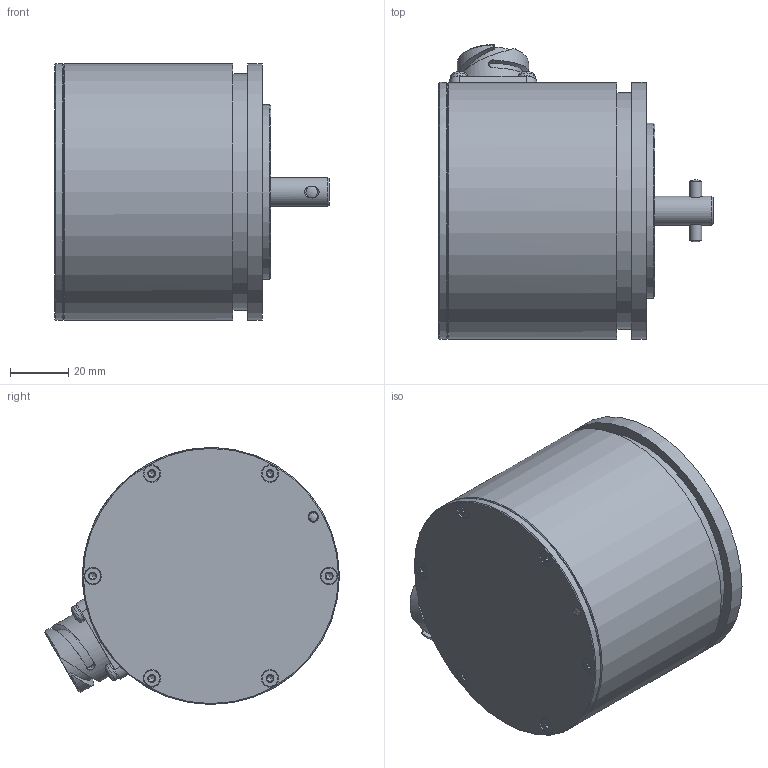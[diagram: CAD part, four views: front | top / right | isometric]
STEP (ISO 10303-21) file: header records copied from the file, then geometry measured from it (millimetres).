
FILE_DESCRIPTION(/* description */ ('XT00000105'),/* implementation_level */ '2;1');
FILE_NAME(/* name */ 'P:\Produkte\Sensoren\Magnetische Winkelsensoren - MT\XT\6 - 3D-Modell\XT00000105 - XT90 3D-Modell ITT-Cannon 7-polig seitlich A.stp',/* time_stamp */ '2016-03-16T09:27:50+01:00',/* author */ (''),/* organization */ ('IBS-Hühne GmbH'),/* preprocessor_version */ 'ST-DEVELOPER v16.1',/* originating_system */ 'Autodesk Inventor 2016',/* authorisation */ '');
FILE_SCHEMA (('AUTOMOTIVE_DESIGN { 1 0 10303 214 3 1 1 }'));
Length unit declared in the file: millimetre
Products named in the file (1): XT00000105 - XT90 3D-Modell ITT-Cannon 7-polig seitlich A
Bounding box: 94.08 x 100.96 x 88 mm (x, y, z)
Volume: 864.9 mm3; surface area: 41287.8 mm2
Topology: 1 solids, 4 shells, 833 faces, 2248 edges, 1479 vertices
Faces by surface type: plane 449, cylinder 212, cone 105, torus 46, bspline 14, sphere 7
Full cylindrical faces by diameter (mm): 1.56 x7, 1.7 x2, 3.6 x7, 4 x2, 5.6 x6, 6 x10, 9.4 x1, 10 x4, 10.2 x1, 13 x1, 13.48 x1, 14 x1, 15.8 x1, 17 x1, 17.48 x1, 21 x1, 22 x1, 24.47 x1, 26 x2, 60 x1, 81 x1, 88 x3
Entity records: 29794 total; most frequent: CARTESIAN_POINT 9330, ORIENTED_EDGE 4172, DIRECTION 3644, EDGE_CURVE 2083, VERTEX_POINT 1435, LINE 1234, VECTOR 1234, AXIS2_PLACEMENT_3D 1205
